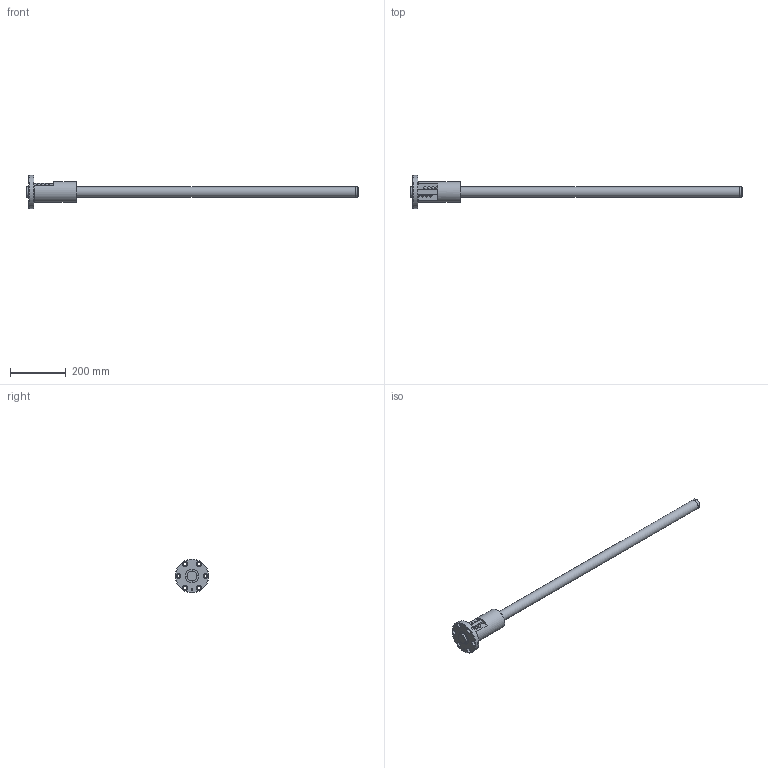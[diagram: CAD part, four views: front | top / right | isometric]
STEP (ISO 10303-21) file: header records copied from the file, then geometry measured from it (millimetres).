
FILE_DESCRIPTION( ( 'STEP AP203' ), ' ' );
FILE_NAME( 'p:/temp/worker_46/3360_3064/app_86_12018011812114084944103818fa3fd_000000_00_00_000000/format_0/BIF3610-10RRG0+1191LC0_10000.stp', '2018-01-18T11:11:42', ( '' ), ( '' ), ' ', 'PARTsolutions', ' ' );
FILE_SCHEMA( ( 'CONFIG_CONTROL_DESIGN' ) );
Length unit declared in the file: millimetre
Products named in the file (3): BIF3610-10RRG0+1191LC0_10000; _BIF 3610-10RR1000500 Shaft; _BIF 3610-10RR Nut
Assembly tree (2 placements, depth 2):
  BIF3610-10RRG0+1191LC0_10000
    _BIF 3610-10RR1000500 Shaft
    _BIF 3610-10RR Nut
Bounding box: 1191 x 120 x 120 mm (x, y, z)
Volume: 1858147.1 mm3; surface area: 227405.8 mm2
Topology: 2 solids, 2 shells, 97 faces, 220 edges, 145 vertices
Faces by surface type: cylinder 47, plane 35, torus 8, cone 7
Full cylindrical faces by diameter (mm): 4.25 x2, 4.917 x1, 7.1 x8, 11 x6, 17.5 x6, 35.5 x2, 36 x4, 49.2 x2, 75 x1, 120 x1
Entity records: 3288 total; most frequent: CARTESIAN_POINT 1098, DIRECTION 454, ORIENTED_EDGE 328, AXIS2_PLACEMENT_3D 206, EDGE_LOOP 189, EDGE_CURVE 164, VERTEX_POINT 138, FACE_OUTER_BOUND 130
